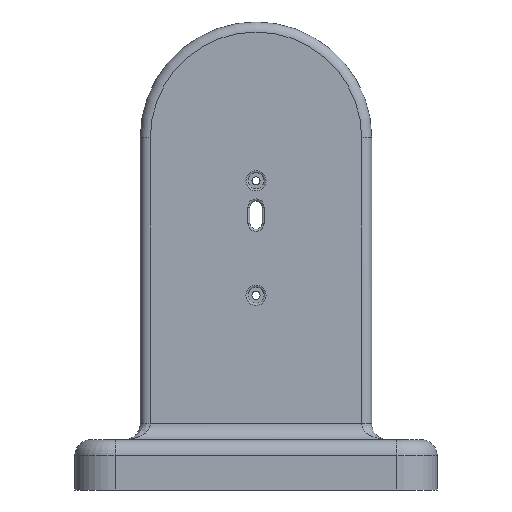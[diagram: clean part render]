
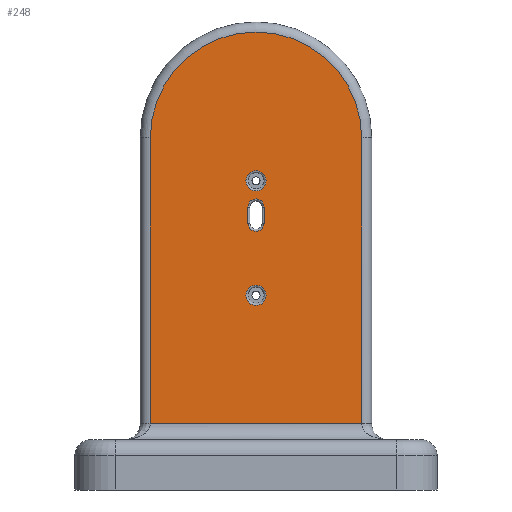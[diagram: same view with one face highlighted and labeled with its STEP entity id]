
A CAD part, front view. The second image highlights one B-rep face of the part: STEP entity #248.
In plain terms, the highlighted planar face has unit normal (0, -1, 0).
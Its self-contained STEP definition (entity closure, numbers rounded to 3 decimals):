
#95 = VERTEX_POINT('',#96);
#96 = CARTESIAN_POINT('',(-3.75,-343.25,15.572));
#103 = EDGE_CURVE('',#95,#104,#106,.T.);
#104 = VERTEX_POINT('',#105);
#105 = CARTESIAN_POINT('',(-3.75,-343.25,7.572));
#106 = LINE('',#107,#108);
#107 = CARTESIAN_POINT('',(-3.75,-343.25,15.572));
#108 = VECTOR('',#109,1.);
#109 = DIRECTION('',(0.,0.,-1.));
#212 = VERTEX_POINT('',#213);
#213 = CARTESIAN_POINT('',(4.25,-343.25,15.572));
#221 = EDGE_CURVE('',#212,#95,#222,.T.);
#222 = CIRCLE('',#223,4.);
#223 = AXIS2_PLACEMENT_3D('',#224,#225,#226);
#224 = CARTESIAN_POINT('',(0.25,-343.25,15.572));
#225 = DIRECTION('',(0.,-1.,0.));
#226 = DIRECTION('',(1.,0.,0.));
#248 = ADVANCED_FACE('',(#249,#260,#295,#313),#324,.T.);
#249 = FACE_BOUND('',#250,.T.);
#250 = EDGE_LOOP('',(#251));
#251 = ORIENTED_EDGE('',*,*,#252,.F.);
#252 = EDGE_CURVE('',#253,#253,#255,.T.);
#253 = VERTEX_POINT('',#254);
#254 = CARTESIAN_POINT('',(5.25,-343.25,-28.288));
#255 = CIRCLE('',#256,5.);
#256 = AXIS2_PLACEMENT_3D('',#257,#258,#259);
#257 = CARTESIAN_POINT('',(0.25,-343.25,-28.288));
#258 = DIRECTION('',(0.,-1.,0.));
#259 = DIRECTION('',(1.,0.,0.));
#260 = FACE_BOUND('',#261,.T.);
#261 = EDGE_LOOP('',(#262,#272,#280,#289));
#262 = ORIENTED_EDGE('',*,*,#263,.T.);
#263 = EDGE_CURVE('',#264,#266,#268,.T.);
#264 = VERTEX_POINT('',#265);
#265 = CARTESIAN_POINT('',(-52.25,-343.25,-92.));
#266 = VERTEX_POINT('',#267);
#267 = CARTESIAN_POINT('',(52.75,-343.25,-92.));
#268 = LINE('',#269,#270);
#269 = CARTESIAN_POINT('',(-57.25,-343.25,-92.));
#270 = VECTOR('',#271,1.);
#271 = DIRECTION('',(1.,0.,0.));
#272 = ORIENTED_EDGE('',*,*,#273,.T.);
#273 = EDGE_CURVE('',#266,#274,#276,.T.);
#274 = VERTEX_POINT('',#275);
#275 = CARTESIAN_POINT('',(52.75,-343.25,50.));
#276 = LINE('',#277,#278);
#277 = CARTESIAN_POINT('',(52.75,-343.25,-92.));
#278 = VECTOR('',#279,1.);
#279 = DIRECTION('',(0.,0.,1.));
#280 = ORIENTED_EDGE('',*,*,#281,.T.);
#281 = EDGE_CURVE('',#274,#282,#284,.T.);
#282 = VERTEX_POINT('',#283);
#283 = CARTESIAN_POINT('',(-52.25,-343.25,50.));
#284 = CIRCLE('',#285,52.5);
#285 = AXIS2_PLACEMENT_3D('',#286,#287,#288);
#286 = CARTESIAN_POINT('',(0.25,-343.25,50.));
#287 = DIRECTION('',(0.,-1.,0.));
#288 = DIRECTION('',(1.,0.,0.));
#289 = ORIENTED_EDGE('',*,*,#290,.T.);
#290 = EDGE_CURVE('',#282,#264,#291,.T.);
#291 = LINE('',#292,#293);
#292 = CARTESIAN_POINT('',(-52.25,-343.25,50.));
#293 = VECTOR('',#294,1.);
#294 = DIRECTION('',(0.,0.,-1.));
#295 = FACE_BOUND('',#296,.T.);
#296 = EDGE_LOOP('',(#297,#306,#307,#308));
#297 = ORIENTED_EDGE('',*,*,#298,.F.);
#298 = EDGE_CURVE('',#104,#299,#301,.T.);
#299 = VERTEX_POINT('',#300);
#300 = CARTESIAN_POINT('',(4.25,-343.25,7.572));
#301 = CIRCLE('',#302,4.);
#302 = AXIS2_PLACEMENT_3D('',#303,#304,#305);
#303 = CARTESIAN_POINT('',(0.25,-343.25,7.572));
#304 = DIRECTION('',(0.,-1.,0.));
#305 = DIRECTION('',(-1.,0.,0.));
#306 = ORIENTED_EDGE('',*,*,#103,.F.);
#307 = ORIENTED_EDGE('',*,*,#221,.F.);
#308 = ORIENTED_EDGE('',*,*,#309,.F.);
#309 = EDGE_CURVE('',#299,#212,#310,.T.);
#310 = B_SPLINE_CURVE_WITH_KNOTS('',1,(#311,#312),.UNSPECIFIED.,.F.,.F.,
  (2,2),(9.425,17.425),.PIECEWISE_BEZIER_KNOTS.);
#311 = CARTESIAN_POINT('',(4.25,-343.25,7.572));
#312 = CARTESIAN_POINT('',(4.25,-343.25,15.572));
#313 = FACE_BOUND('',#314,.T.);
#314 = EDGE_LOOP('',(#315));
#315 = ORIENTED_EDGE('',*,*,#316,.F.);
#316 = EDGE_CURVE('',#317,#317,#319,.T.);
#317 = VERTEX_POINT('',#318);
#318 = CARTESIAN_POINT('',(5.25,-343.25,28.59));
#319 = CIRCLE('',#320,5.);
#320 = AXIS2_PLACEMENT_3D('',#321,#322,#323);
#321 = CARTESIAN_POINT('',(0.25,-343.25,28.59));
#322 = DIRECTION('',(0.,-1.,0.));
#323 = DIRECTION('',(1.,0.,0.));
#324 = PLANE('',#325);
#325 = AXIS2_PLACEMENT_3D('',#326,#327,#328);
#326 = CARTESIAN_POINT('',(0.25,-343.25,-48.59));
#327 = DIRECTION('',(0.,-1.,0.));
#328 = DIRECTION('',(0.,0.,1.));
